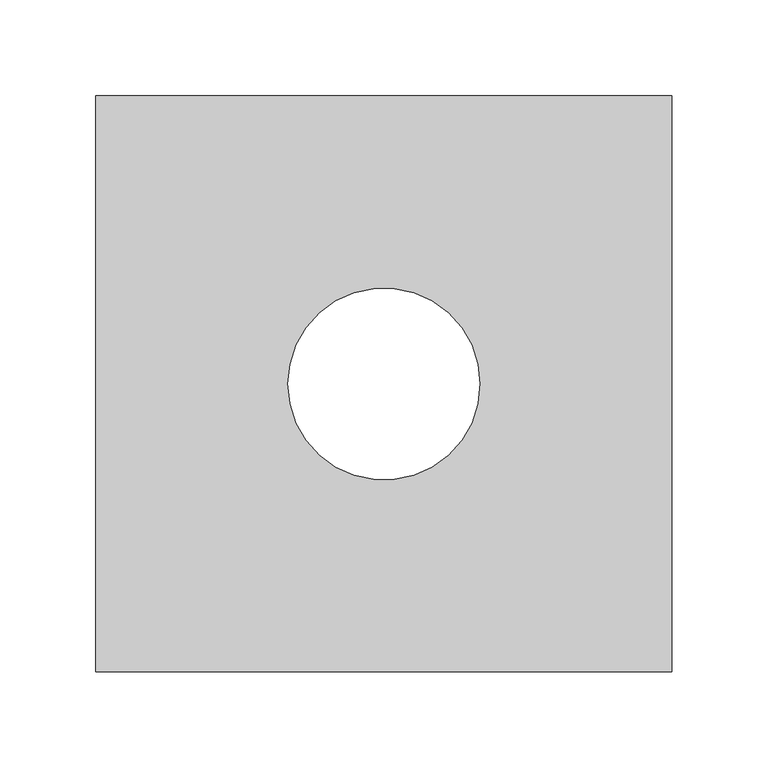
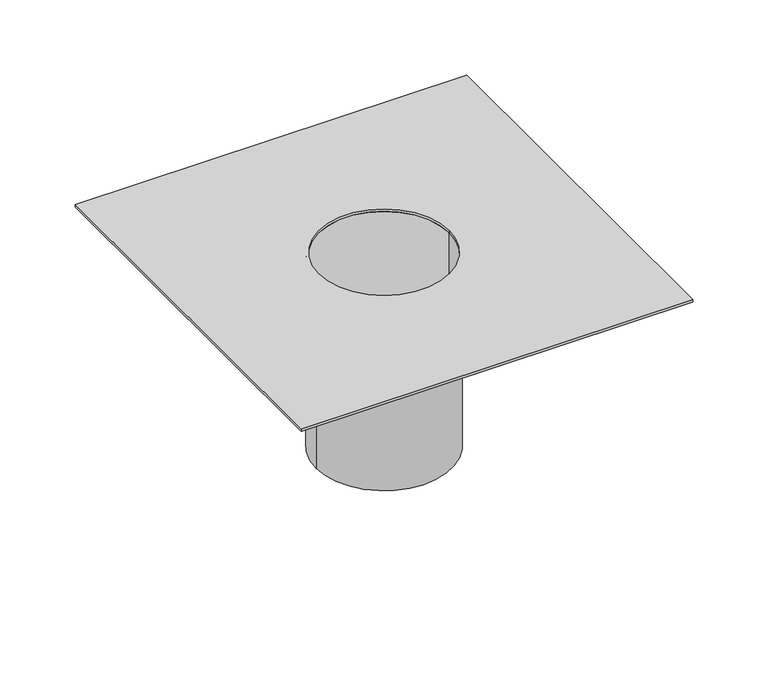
"""IFC4 building model written with IfcOpenShell, lengths in millimetres: proxy geometry, Modelos genéricos 1 : Modelos genéricos 1."""

import ifcopenshell
import ifcopenshell.guid

model = None  # the IFC model being written
_history = None  # IfcOwnerHistory: only IFC2X3 demands one
_inside = {}  # id of a spatial element -> (the spatial element, [elements in it])
_under = {}  # id of a project, library or spatial element -> (it, [spatial elements below it])
_declared = {}  # id of a project -> (the project, [libraries it declares])
_typed = {}  # id of a type object -> (the type object, [elements of that type])
_made_of = {}  # id of a material, layer set ... -> (it, [elements and type objects made of it])


def new_model(schema):
    """Start an empty IFC model of exactly this schema.

    Asked for "IFC4X3", IfcOpenShell would pick the latest addendum, in which some entities
    have other attributes; the version numbers below select the first issue.
    IFC2X3 requires an IfcOwnerHistory on every rooted entity: one is made here for all.
    """
    global model, _history
    if schema == "IFC4X3":
        model = ifcopenshell.file(schema_version=(4, 3, 0, 0))
    else:
        model = ifcopenshell.file(schema=schema)
    _inside.clear()
    _under.clear()
    _declared.clear()
    _typed.clear()
    _made_of.clear()
    _history = None
    if model.schema == "IFC2X3":
        org = make("IfcOrganization", Name="unknown")
        user = make(
            "IfcPersonAndOrganization",
            ThePerson=make("IfcPerson", FamilyName="unknown"),
            TheOrganization=org,
        )
        app = make(
            "IfcApplication",
            ApplicationDeveloper=org,
            Version="unknown",
            ApplicationFullName="unknown",
            ApplicationIdentifier="unknown",
        )
        _history = make(
            "IfcOwnerHistory",
            OwningUser=user,
            OwningApplication=app,
            ChangeAction="ADDED",
            CreationDate=0,
        )
    return model


def make(cls, **values):
    """One entity of the class cls with the attributes given. An attribute that is None is left unset."""
    return model.create_entity(
        cls, **{name: value for name, value in values.items() if value is not None}
    )


def rooted(cls, **values):
    """An entity with a GlobalId (a new one), such as an element, a storey or a relation."""
    return make(cls, GlobalId=ifcopenshell.guid.new(), OwnerHistory=_history, **values)


def si_unit(unit_type, name, prefix=None):
    """IfcSIUnit, for example si_unit("LENGTHUNIT", "METRE", prefix="MILLI")."""
    return make("IfcSIUnit", UnitType=unit_type, Prefix=prefix, Name=name)


def assignment(units):
    """IfcUnitAssignment: the units of a project."""
    return None if units is None else make("IfcUnitAssignment", Units=units)


def point(xyz):
    """IfcCartesianPoint."""
    return None if xyz is None else make("IfcCartesianPoint", Coordinates=xyz)


def direction(xyz):
    """IfcDirection."""
    return None if xyz is None else make("IfcDirection", DirectionRatios=xyz)


def frame(location, z_axis=None, x_axis=None):
    """IfcAxis2Placement3D, a coordinate frame: its origin and axes. An axis left out is left unset."""
    return make(
        "IfcAxis2Placement3D",
        Location=point(location),
        Axis=direction(z_axis),
        RefDirection=direction(x_axis),
    )


def frame_2d(location, x_axis=None):
    """IfcAxis2Placement2D, a coordinate frame in the plane: its origin and x axis."""
    return make(
        "IfcAxis2Placement2D", Location=point(location), RefDirection=direction(x_axis)
    )


def origin():
    """The frame at (0, 0, 0) with its axes left unset."""
    return frame((0.0, 0.0, 0.0))


def place(relative_to, where):
    """IfcLocalPlacement: puts the frame where relative to a parent placement (None: the world)."""
    return make(
        "IfcLocalPlacement", PlacementRelTo=relative_to, RelativePlacement=where
    )


def context(
    kind, dimensions, precision=None, world=None, true_north=None, identifier=None
):
    """IfcGeometricRepresentationContext, for example the 3D "Model" context."""
    return make(
        "IfcGeometricRepresentationContext",
        ContextIdentifier=identifier,
        ContextType=kind,
        CoordinateSpaceDimension=dimensions,
        Precision=precision,
        WorldCoordinateSystem=world,
        TrueNorth=true_north,
    )


def project(units=None, contexts=None):
    """IfcProject with its units and contexts."""
    return rooted(
        "IfcProject",
        Name="project",
        RepresentationContexts=contexts,
        UnitsInContext=assignment(units),
    )


def spatial(cls, under=None, at=None, **own):
    """A site, building, storey or space (cls), placed at a placement, below another one or the project."""
    s = rooted(cls, ObjectPlacement=at, **own)
    if under is not None:
        _under.setdefault(under.id(), (under, []))[1].append(s)
    return s


def polyline(points):
    """IfcPolyline through the points."""
    return make("IfcPolyline", Points=[point(p) for p in points])


def circle_curve(where, radius):
    """IfcCircle in the frame where."""
    return make("IfcCircle", Position=where, Radius=radius)


def trimmed(basis, trim1, trim2, sense, master):
    """IfcTrimmedCurve: the piece of a basis curve between two trims."""
    return make(
        "IfcTrimmedCurve",
        BasisCurve=basis,
        Trim1=trim1,
        Trim2=trim2,
        SenseAgreement=sense,
        MasterRepresentation=master,
    )


def segment(curve, same_sense, transition):
    """IfcCompositeCurveSegment."""
    return make(
        "IfcCompositeCurveSegment",
        Transition=transition,
        SameSense=same_sense,
        ParentCurve=curve,
    )


def composite_curve(segments, self_intersect=None):
    """IfcCompositeCurve: segments joined end to end."""
    return make("IfcCompositeCurve", Segments=segments, SelfIntersect=self_intersect)


def outline(outer, holes=None, kind="AREA"):
    """IfcArbitraryClosedProfileDef: a profile drawn as a closed curve; with holes, ...WithVoids."""
    if holes is None:
        return make("IfcArbitraryClosedProfileDef", ProfileType=kind, OuterCurve=outer)
    return make(
        "IfcArbitraryProfileDefWithVoids",
        ProfileType=kind,
        OuterCurve=outer,
        InnerCurves=holes,
    )


def extrude(swept, where, along, depth):
    """IfcExtrudedAreaSolid: the profile swept, set in the frame where, extruded along a direction by depth."""
    return make(
        "IfcExtrudedAreaSolid",
        SweptArea=swept,
        Position=where,
        ExtrudedDirection=direction(along),
        Depth=depth,
    )


def shape(context_of_items, identifier, shape_type, items):
    """IfcShapeRepresentation: the items that make up one representation, for example the "Body"."""
    return make(
        "IfcShapeRepresentation",
        ContextOfItems=context_of_items,
        RepresentationIdentifier=identifier,
        RepresentationType=shape_type,
        Items=items,
    )


def source(mapping_origin, context_of_items, identifier, shape_type, items):
    """IfcRepresentationMap: a shape defined once, which mapped items show again and again."""
    return make(
        "IfcRepresentationMap",
        MappingOrigin=mapping_origin,
        MappedRepresentation=shape(context_of_items, identifier, shape_type, items),
    )


def transform(
    local_origin,
    x_axis=None,
    y_axis=None,
    z_axis=None,
    scale=None,
    scale2=None,
    scale3=None,
    uniform=True,
):
    """IfcCartesianTransformationOperator3D, or its non-uniform kind. x_axis, y_axis, z_axis: its Axis1, 2, 3."""
    if uniform:
        return make(
            "IfcCartesianTransformationOperator3D",
            Axis1=direction(x_axis),
            Axis2=direction(y_axis),
            LocalOrigin=point(local_origin),
            Scale=scale,
            Axis3=direction(z_axis),
        )
    return make(
        "IfcCartesianTransformationOperator3DnonUniform",
        Axis1=direction(x_axis),
        Axis2=direction(y_axis),
        LocalOrigin=point(local_origin),
        Scale=scale,
        Axis3=direction(z_axis),
        Scale2=scale2,
        Scale3=scale3,
    )


def mapped(mapping_source, mapping_target):
    """IfcMappedItem: shows the shape of a source again, moved by a transform."""
    return make(
        "IfcMappedItem", MappingSource=mapping_source, MappingTarget=mapping_target
    )


def made_of(thing, what):
    """Note that an element or type object is made of a material, layer set ...; save() writes the relation."""
    if what is not None:
        _made_of.setdefault(what.id(), (what, []))[1].append(thing)
    return thing


def element(
    cls,
    number,
    at=None,
    inside=None,
    cuts=None,
    type_object=None,
    material=None,
    context=None,
    identifier="Body",
    shape_type=None,
    held_by="IfcProductDefinitionShape",
    body=None,
    shapes=None,
    **own,
):
    """One element of the class cls, such as IfcWall. Its Tag is "e" and its number.

    at: its placement. inside: the storey or other place that contains it. cuts: it is an
    opening in that element (IfcRelVoidsElement). A single representation is given by context,
    identifier, shape_type and body (its items); several are given by shapes. held_by: the class
    of the entity that holds the representations. save() writes the other relations.
    """
    e = rooted(cls, Tag="e%d" % number, ObjectPlacement=at, **own)
    if body is not None:
        shapes = [shape(context, identifier, shape_type, body)]
    if shapes is not None:
        e.Representation = make(held_by, Representations=shapes)
    if inside is not None:
        _inside.setdefault(inside.id(), (inside, []))[1].append(e)
    if cuts is not None:
        rooted(
            "IfcRelVoidsElement", RelatingBuildingElement=cuts, RelatedOpeningElement=e
        )
    if type_object is not None:
        _typed.setdefault(type_object.id(), (type_object, []))[1].append(e)
    return made_of(e, material)


def aggregate(whole, parts):
    """IfcRelAggregates: a whole, such as a stair, and the parts it consists of."""
    return rooted("IfcRelAggregates", RelatingObject=whole, RelatedObjects=parts)


def save(model, path):
    """Write the relations noted so far, then the file.

    IfcRelAggregates (storeys below a building ...), IfcRelContainedInSpatialStructure (elements
    in a storey), IfcRelDefinesByType, IfcRelAssociatesMaterial and IfcRelDeclares: one each for
    every whole, place, type object, material and project.
    """
    for whole, parts in _under.values():
        aggregate(whole, parts)
    for where, things in _inside.values():
        rooted(
            "IfcRelContainedInSpatialStructure",
            RelatedElements=things,
            RelatingStructure=where,
        )
    for kind, things in _typed.values():
        rooted("IfcRelDefinesByType", RelatedObjects=things, RelatingType=kind)
    for what, things in _made_of.values():
        rooted("IfcRelAssociatesMaterial", RelatedObjects=things, RelatingMaterial=what)
    for by, libraries in _declared.values():
        rooted("IfcRelDeclares", RelatingContext=by, RelatedDefinitions=libraries)
    model.write(path)


def generic_models_2d76c1d5(model_context):
    return source(origin(), model_context, "Body", "SweptSolid", [
        extrude(outline(composite_curve([segment(trimmed(circle_curve(frame_2d((922.6644952, -1237.9912025)), 52.0), [point((974.6644952, -1237.9912025))], [point((870.6644952, -1237.9912025))], False, "CARTESIAN"), True, "CONTINUOUS"), segment(trimmed(circle_curve(frame_2d((922.6644952, -1237.9912025)), 52.0), [point((870.6644952, -1237.9912025))], [point((974.6644952, -1237.9912025))], False, "CARTESIAN"), True, "CONTINUOUS")], self_intersect=False), holes=[composite_curve([segment(trimmed(circle_curve(frame_2d((922.6644952, -1237.9912025)), 50.0), [point((972.6644952, -1237.9912025))], [point((872.6644952, -1237.9912025))], True, "CARTESIAN"), True, "CONTINUOUS"), segment(trimmed(circle_curve(frame_2d((922.6644952, -1237.9912025)), 50.0), [point((872.6644952, -1237.9912025))], [point((972.6644952, -1237.9912025))], True, "CARTESIAN"), True, "CONTINUOUS")], self_intersect=False)]), frame((0.0, 0.0, -135.523798), z_axis=(0.0, 0.0, 1.0), x_axis=(1.0, 0.0, 0.0)), (0.0, 0.0, 1.0), 154.9299739),
        extrude(outline(polyline([(1072.6644952, -1087.9912025), (1072.6644952, -1387.9912025), (772.6644952, -1387.9912025), (772.6644952, -1087.9912025), (1072.6644952, -1087.9912025)]), holes=[composite_curve([segment(trimmed(circle_curve(frame_2d((922.6644952, -1237.9912025)), 50.0), [point((872.6644952, -1237.9912025))], [point((972.6644952, -1237.9912025))], True, "CARTESIAN"), True, "CONTINUOUS"), segment(trimmed(circle_curve(frame_2d((922.6644952, -1237.9912025)), 50.0), [point((972.6644952, -1237.9912025))], [point((872.6644952, -1237.9912025))], True, "CARTESIAN"), True, "CONTINUOUS")], self_intersect=False)]), frame((0.0, 0.0, 19.4061759), z_axis=(0.0, 0.0, 1.0), x_axis=(1.0, 0.0, 0.0)), (0.0, 0.0, 1.0), 2.0735733),
    ])


if __name__ == "__main__":
    model = new_model("IFC4")
    model_context = context("Model", 3, world=origin())
    ifc_project = project(units=[si_unit("LENGTHUNIT", "METRE", prefix="MILLI")], contexts=[model_context])
    site = spatial("IfcSite", under=ifc_project)
    building = spatial("IfcBuilding", under=site)
    placement = place(None, origin())
    generic_models_shape = generic_models_2d76c1d5(model_context)
    element("IfcBuildingElementProxy", 1, Name="Modelos genéricos 1 : Modelos genéricos 1", ObjectType="Modelos genéricos 1 : Modelos genéricos 1", at=placement, inside=building, context=model_context, shape_type="MappedRepresentation", body=[
        mapped(generic_models_shape, transform((0.0, 0.0, 0.0), x_axis=(1.0, 0.0, 0.0), y_axis=(0.0, 1.0, 0.0), z_axis=(0.0, 0.0, 1.0))),
    ])
    save(model, "model.ifc")
